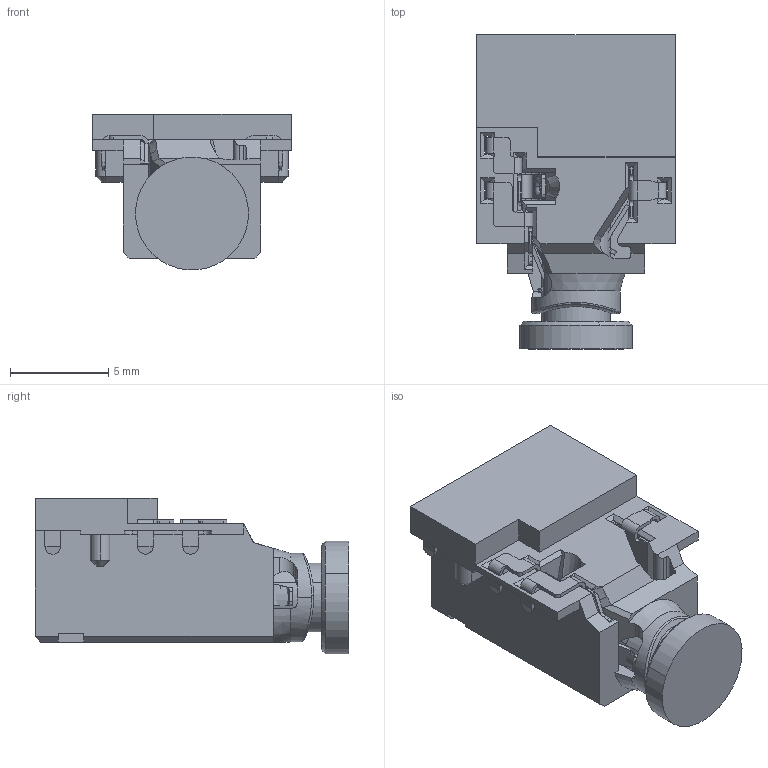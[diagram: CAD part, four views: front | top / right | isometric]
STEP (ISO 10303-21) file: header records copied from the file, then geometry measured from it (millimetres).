
FILE_DESCRIPTION((''),'2;1');
FILE_NAME('_3_20-3D_220615__ASM','2022-06-15T',('A'),(''),'PRO/ENGINEER BY PARAMETRIC TECHNOLOGY CORPORATION, 2011310','PRO/ENGINEER BY PARAMETRIC TECHNOLOGY CORPORATION, 2011310','');
FILE_SCHEMA(('CONFIG_CONTROL_DESIGN'));
Length unit declared in the file: millimetre
Products named in the file (4): __3_2_____1; 3_5MM_PLUG; __3_20-3D_____220610__ASM; _3_20-3D_220615__ASM
Assembly tree (3 placements, depth 3):
  _3_20-3D_220615__ASM
    __3_20-3D_____220610__ASM
      __3_2_____1
      3_5MM_PLUG
Bounding box: 10.1 x 15.95 x 7.91 mm (x, y, z)
Volume: 587.4 mm3; surface area: 1366.7 mm2
Topology: 2 solids, 2 shells, 813 faces, 2355 edges, 1533 vertices
Faces by surface type: plane 528, cylinder 210, bspline 34, cone 22, torus 12, sphere 6, extrusion 1
Entity records: 28960 total; most frequent: CARTESIAN_POINT 7618, ORIENTED_EDGE 4578, DIRECTION 4158, EDGE_CURVE 2289, VECTOR 1706, LINE 1705, VERTEX_POINT 1467, AXIS2_PLACEMENT_3D 1226
